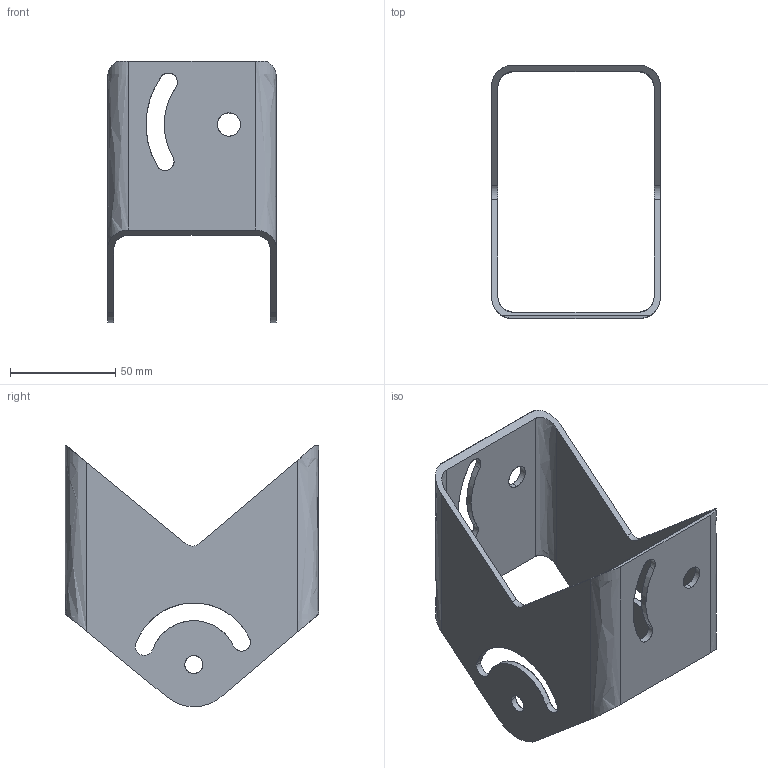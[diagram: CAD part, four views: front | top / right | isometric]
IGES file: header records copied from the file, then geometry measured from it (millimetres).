
Start section: SolidWorks IGES file using analytic representation for surfaces
Global section: file name: C:\Shalunov\Àòëàñ Ò\Ðàñ÷åò ïðîèçâîäñòâà\Ìåòàëë\Ðåçêà\òðóáà 120õ120.IGS; native system: SolidWorks 2019; preprocessor: SolidWorks 2019; author: Vga2023; date: 250311.173823; units: millimetre
Bounding box: 80 x 120 x 123.96 mm (x, y, z)
Surface area: 60279.8 mm2 (no closed solid volume)
Topology: 0 solids, 0 shells, 54 faces, 1294 edges, 1294 vertices
Faces by surface type: revolution 40, bspline 14
